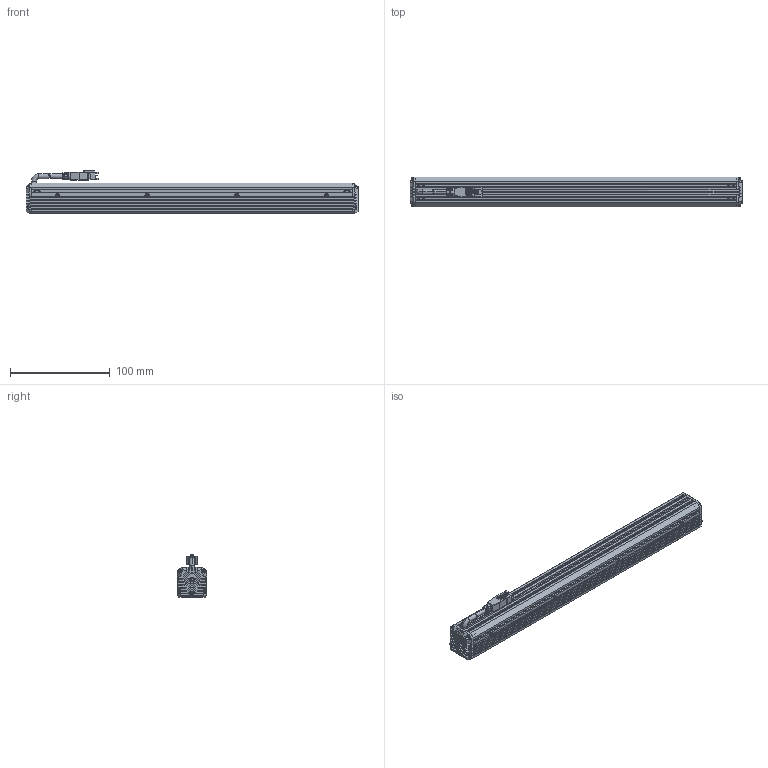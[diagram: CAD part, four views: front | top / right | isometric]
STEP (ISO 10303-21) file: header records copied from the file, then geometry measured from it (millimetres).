
FILE_DESCRIPTION((''),'2;1');
FILE_NAME('MV-LLDS-H-350-30-W-PL_ASM','2024-04-08T13:57:12',('huguozhe'),(''),'CREO PARAMETRIC BY PTC INC, 2020044','CREO PARAMETRIC BY PTC INC, 2020044','');
FILE_SCHEMA(('AUTOMOTIVE_DESIGN { 1 0 10303 214 1 1 1 1 }'));
Length unit declared in the file: millimetre
Products named in the file (15): DE-15-001260; DE-15-001259_ASM; DE-15-000494; DE-15-000493_ASM; DE-12-002271; TIP-M3X4-4_5X5-SO-ET-07061033; DE-12-002271_ASM; DE-12-001576; SC-KM2X6-BNI-GB819; XIANLAN_HEAD; CABLE_HEAD; CABLE_HEAD_ASM_ASM; 190100852; SC-PM2X6B-JMP; MV-LLDS-H-350-30-W-PL_ASM
Assembly tree (33 placements, depth 3):
  MV-LLDS-H-350-30-W-PL_ASM
    DE-15-001259_ASM
      DE-15-001260
    DE-15-000493_ASM
      DE-15-000494
    DE-12-002271_ASM  x2
      DE-12-002271
      TIP-M3X4-4_5X5-SO-ET-07061033
    DE-12-001576
    SC-KM2X6-BNI-GB819  x4
    CABLE_HEAD_ASM_ASM
      XIANLAN_HEAD
      CABLE_HEAD
    190100852  x8
    SC-PM2X6B-JMP  x8
Bounding box: 333 x 30 x 42.65 mm (x, y, z)
Volume: 230152.5 mm3; surface area: 128266.9 mm2
Topology: 31 solids, 67 shells, 2798 faces, 7224 edges, 4549 vertices
Faces by surface type: plane 1344, cylinder 610, bspline 472, cone 313, torus 50, sphere 8, extrusion 1
Entity records: 48118 total; most frequent: CARTESIAN_POINT 11244, ORIENTED_EDGE 6166, DIRECTION 5951, EDGE_CURVE 3115, VERTEX_POINT 1996, AXIS2_PLACEMENT_3D 1985, VECTOR 1981, LINE 1980
